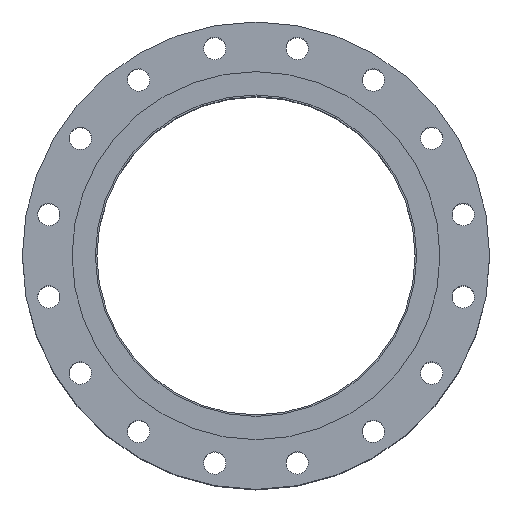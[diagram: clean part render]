
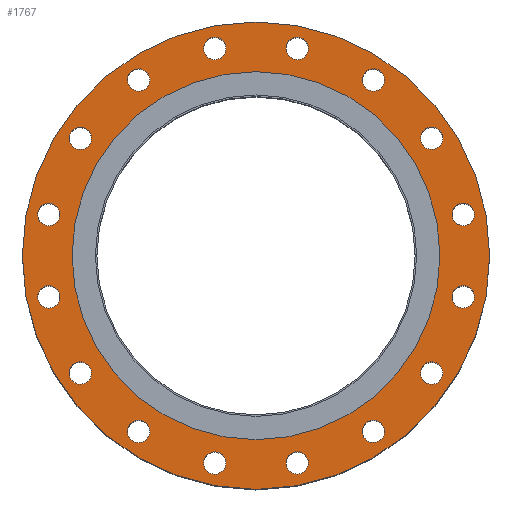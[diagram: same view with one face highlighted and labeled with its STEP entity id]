
A CAD part, top view. The second image highlights one B-rep face of the part: STEP entity #1767.
In plain terms, the highlighted planar face has unit normal (0, 0, 1).
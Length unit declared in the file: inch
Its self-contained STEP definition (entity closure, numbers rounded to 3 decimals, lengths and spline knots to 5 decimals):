
#92=FACE_BOUND('',#451,.T.);
#93=FACE_BOUND('',#452,.T.);
#94=FACE_BOUND('',#453,.T.);
#95=FACE_BOUND('',#454,.T.);
#96=FACE_BOUND('',#455,.T.);
#97=FACE_BOUND('',#456,.T.);
#98=FACE_BOUND('',#457,.T.);
#99=FACE_BOUND('',#458,.T.);
#100=FACE_BOUND('',#459,.T.);
#101=FACE_BOUND('',#460,.T.);
#102=FACE_BOUND('',#461,.T.);
#103=FACE_BOUND('',#462,.T.);
#104=FACE_BOUND('',#463,.T.);
#105=FACE_BOUND('',#464,.T.);
#106=FACE_BOUND('',#465,.T.);
#107=FACE_BOUND('',#466,.T.);
#108=FACE_BOUND('',#467,.T.);
#166=PLANE('',#1996);
#297=FACE_OUTER_BOUND('',#450,.T.);
#450=EDGE_LOOP('',(#1373));
#451=EDGE_LOOP('',(#1374));
#452=EDGE_LOOP('',(#1375));
#453=EDGE_LOOP('',(#1376));
#454=EDGE_LOOP('',(#1377));
#455=EDGE_LOOP('',(#1378));
#456=EDGE_LOOP('',(#1379));
#457=EDGE_LOOP('',(#1380));
#458=EDGE_LOOP('',(#1381));
#459=EDGE_LOOP('',(#1382));
#460=EDGE_LOOP('',(#1383));
#461=EDGE_LOOP('',(#1384));
#462=EDGE_LOOP('',(#1385));
#463=EDGE_LOOP('',(#1386));
#464=EDGE_LOOP('',(#1387));
#465=EDGE_LOOP('',(#1388));
#466=EDGE_LOOP('',(#1389));
#467=EDGE_LOOP('',(#1390));
#679=CIRCLE('',#1927,0.5625);
#681=CIRCLE('',#1930,0.5625);
#683=CIRCLE('',#1933,0.5625);
#685=CIRCLE('',#1936,0.5625);
#687=CIRCLE('',#1939,0.5625);
#689=CIRCLE('',#1942,0.5625);
#691=CIRCLE('',#1945,0.5625);
#693=CIRCLE('',#1948,0.5625);
#695=CIRCLE('',#1951,0.5625);
#697=CIRCLE('',#1954,0.5625);
#699=CIRCLE('',#1957,0.5625);
#701=CIRCLE('',#1960,0.5625);
#703=CIRCLE('',#1963,0.5625);
#705=CIRCLE('',#1966,0.5625);
#707=CIRCLE('',#1969,0.5625);
#709=CIRCLE('',#1972,0.5625);
#722=CIRCLE('',#1991,9.25);
#724=CIRCLE('',#1995,11.75);
#883=VERTEX_POINT('',#3022);
#885=VERTEX_POINT('',#3028);
#887=VERTEX_POINT('',#3034);
#889=VERTEX_POINT('',#3040);
#891=VERTEX_POINT('',#3046);
#893=VERTEX_POINT('',#3052);
#895=VERTEX_POINT('',#3058);
#897=VERTEX_POINT('',#3064);
#899=VERTEX_POINT('',#3070);
#901=VERTEX_POINT('',#3076);
#903=VERTEX_POINT('',#3082);
#905=VERTEX_POINT('',#3088);
#907=VERTEX_POINT('',#3094);
#909=VERTEX_POINT('',#3100);
#911=VERTEX_POINT('',#3106);
#913=VERTEX_POINT('',#3112);
#924=VERTEX_POINT('',#3144);
#926=VERTEX_POINT('',#3151);
#1035=EDGE_CURVE('',#883,#883,#679,.T.);
#1038=EDGE_CURVE('',#885,#885,#681,.T.);
#1041=EDGE_CURVE('',#887,#887,#683,.T.);
#1044=EDGE_CURVE('',#889,#889,#685,.T.);
#1047=EDGE_CURVE('',#891,#891,#687,.T.);
#1050=EDGE_CURVE('',#893,#893,#689,.T.);
#1053=EDGE_CURVE('',#895,#895,#691,.T.);
#1056=EDGE_CURVE('',#897,#897,#693,.T.);
#1059=EDGE_CURVE('',#899,#899,#695,.T.);
#1062=EDGE_CURVE('',#901,#901,#697,.T.);
#1065=EDGE_CURVE('',#903,#903,#699,.T.);
#1068=EDGE_CURVE('',#905,#905,#701,.T.);
#1071=EDGE_CURVE('',#907,#907,#703,.T.);
#1074=EDGE_CURVE('',#909,#909,#705,.T.);
#1077=EDGE_CURVE('',#911,#911,#707,.T.);
#1080=EDGE_CURVE('',#913,#913,#709,.T.);
#1096=EDGE_CURVE('',#924,#924,#722,.T.);
#1098=EDGE_CURVE('',#926,#926,#724,.T.);
#1373=ORIENTED_EDGE('',*,*,#1098,.T.);
#1374=ORIENTED_EDGE('',*,*,#1035,.T.);
#1375=ORIENTED_EDGE('',*,*,#1038,.T.);
#1376=ORIENTED_EDGE('',*,*,#1041,.T.);
#1377=ORIENTED_EDGE('',*,*,#1044,.T.);
#1378=ORIENTED_EDGE('',*,*,#1047,.T.);
#1379=ORIENTED_EDGE('',*,*,#1050,.T.);
#1380=ORIENTED_EDGE('',*,*,#1053,.T.);
#1381=ORIENTED_EDGE('',*,*,#1056,.T.);
#1382=ORIENTED_EDGE('',*,*,#1059,.T.);
#1383=ORIENTED_EDGE('',*,*,#1062,.T.);
#1384=ORIENTED_EDGE('',*,*,#1065,.T.);
#1385=ORIENTED_EDGE('',*,*,#1068,.T.);
#1386=ORIENTED_EDGE('',*,*,#1071,.T.);
#1387=ORIENTED_EDGE('',*,*,#1074,.T.);
#1388=ORIENTED_EDGE('',*,*,#1077,.T.);
#1389=ORIENTED_EDGE('',*,*,#1080,.T.);
#1390=ORIENTED_EDGE('',*,*,#1096,.T.);
#1767=ADVANCED_FACE('',(#297,#92,#93,#94,#95,#96,#97,#98,#99,#100,#101,
#102,#103,#104,#105,#106,#107,#108),#166,.T.);
#1927=AXIS2_PLACEMENT_3D('',#3023,#2287,#2288);
#1930=AXIS2_PLACEMENT_3D('',#3029,#2294,#2295);
#1933=AXIS2_PLACEMENT_3D('',#3035,#2301,#2302);
#1936=AXIS2_PLACEMENT_3D('',#3041,#2308,#2309);
#1939=AXIS2_PLACEMENT_3D('',#3047,#2315,#2316);
#1942=AXIS2_PLACEMENT_3D('',#3053,#2322,#2323);
#1945=AXIS2_PLACEMENT_3D('',#3059,#2329,#2330);
#1948=AXIS2_PLACEMENT_3D('',#3065,#2336,#2337);
#1951=AXIS2_PLACEMENT_3D('',#3071,#2343,#2344);
#1954=AXIS2_PLACEMENT_3D('',#3077,#2350,#2351);
#1957=AXIS2_PLACEMENT_3D('',#3083,#2357,#2358);
#1960=AXIS2_PLACEMENT_3D('',#3089,#2364,#2365);
#1963=AXIS2_PLACEMENT_3D('',#3095,#2371,#2372);
#1966=AXIS2_PLACEMENT_3D('',#3101,#2378,#2379);
#1969=AXIS2_PLACEMENT_3D('',#3107,#2385,#2386);
#1972=AXIS2_PLACEMENT_3D('',#3113,#2392,#2393);
#1991=AXIS2_PLACEMENT_3D('',#3146,#2433,#2434);
#1995=AXIS2_PLACEMENT_3D('',#3152,#2441,#2442);
#1996=AXIS2_PLACEMENT_3D('',#3154,#2444,#2445);
#2287=DIRECTION('center_axis',(0.,0.,-1.));
#2288=DIRECTION('ref_axis',(0.924,-0.383,0.));
#2294=DIRECTION('center_axis',(0.,0.,-1.));
#2295=DIRECTION('ref_axis',(0.707,-0.707,0.));
#2301=DIRECTION('center_axis',(0.,0.,-1.));
#2302=DIRECTION('ref_axis',(0.383,-0.924,0.));
#2308=DIRECTION('center_axis',(0.,0.,-1.));
#2309=DIRECTION('ref_axis',(0.,-1.,0.));
#2315=DIRECTION('center_axis',(0.,0.,-1.));
#2316=DIRECTION('ref_axis',(-0.383,-0.924,0.));
#2322=DIRECTION('center_axis',(0.,0.,-1.));
#2323=DIRECTION('ref_axis',(-0.707,-0.707,0.));
#2329=DIRECTION('center_axis',(0.,0.,-1.));
#2330=DIRECTION('ref_axis',(-0.924,-0.383,0.));
#2336=DIRECTION('center_axis',(0.,0.,-1.));
#2337=DIRECTION('ref_axis',(-1.,0.,0.));
#2343=DIRECTION('center_axis',(0.,0.,-1.));
#2344=DIRECTION('ref_axis',(-0.924,0.383,0.));
#2350=DIRECTION('center_axis',(0.,0.,-1.));
#2351=DIRECTION('ref_axis',(-0.707,0.707,0.));
#2357=DIRECTION('center_axis',(0.,0.,-1.));
#2358=DIRECTION('ref_axis',(-0.383,0.924,0.));
#2364=DIRECTION('center_axis',(0.,0.,-1.));
#2365=DIRECTION('ref_axis',(0.,1.,0.));
#2371=DIRECTION('center_axis',(0.,0.,-1.));
#2372=DIRECTION('ref_axis',(0.383,0.924,0.));
#2378=DIRECTION('center_axis',(0.,0.,-1.));
#2379=DIRECTION('ref_axis',(0.707,0.707,0.));
#2385=DIRECTION('center_axis',(0.,0.,-1.));
#2386=DIRECTION('ref_axis',(0.924,0.383,0.));
#2392=DIRECTION('center_axis',(0.,0.,-1.));
#2393=DIRECTION('ref_axis',(1.,0.,0.));
#2433=DIRECTION('center_axis',(0.,0.,-1.));
#2434=DIRECTION('ref_axis',(0.,1.,0.));
#2441=DIRECTION('center_axis',(0.,0.,1.));
#2442=DIRECTION('ref_axis',(1.,0.,0.));
#2444=DIRECTION('center_axis',(0.,0.,1.));
#2445=DIRECTION('ref_axis',(1.,0.,0.));
#3022=CARTESIAN_POINT('',(1.55315,10.6361,0.69));
#3023=CARTESIAN_POINT('Origin',(2.07283,10.42084,0.69));
#3028=CARTESIAN_POINT('',(5.50519,9.23211,0.69));
#3029=CARTESIAN_POINT('Origin',(5.90293,8.83436,0.69));
#3034=CARTESIAN_POINT('',(8.61911,6.42262,0.69));
#3035=CARTESIAN_POINT('Origin',(8.83436,5.90293,0.69));
#3040=CARTESIAN_POINT('',(10.42084,2.63533,0.69));
#3041=CARTESIAN_POINT('Origin',(10.42084,2.07283,0.69));
#3046=CARTESIAN_POINT('',(10.6361,-1.55315,0.69));
#3047=CARTESIAN_POINT('Origin',(10.42084,-2.07283,0.69));
#3052=CARTESIAN_POINT('',(9.23211,-5.50519,0.69));
#3053=CARTESIAN_POINT('Origin',(8.83436,-5.90293,0.69));
#3058=CARTESIAN_POINT('',(6.42262,-8.61911,0.69));
#3059=CARTESIAN_POINT('Origin',(5.90293,-8.83436,0.69));
#3064=CARTESIAN_POINT('',(2.63533,-10.42084,0.69));
#3065=CARTESIAN_POINT('Origin',(2.07283,-10.42084,0.69));
#3070=CARTESIAN_POINT('',(-1.55315,-10.6361,0.69));
#3071=CARTESIAN_POINT('Origin',(-2.07283,-10.42084,0.69));
#3076=CARTESIAN_POINT('',(-5.50519,-9.23211,0.69));
#3077=CARTESIAN_POINT('Origin',(-5.90293,-8.83436,0.69));
#3082=CARTESIAN_POINT('',(-8.61911,-6.42262,0.69));
#3083=CARTESIAN_POINT('Origin',(-8.83436,-5.90293,0.69));
#3088=CARTESIAN_POINT('',(-10.42084,-2.63533,0.69));
#3089=CARTESIAN_POINT('Origin',(-10.42084,-2.07283,0.69));
#3094=CARTESIAN_POINT('',(-10.6361,1.55315,0.69));
#3095=CARTESIAN_POINT('Origin',(-10.42084,2.07283,0.69));
#3100=CARTESIAN_POINT('',(-9.23211,5.50519,0.69));
#3101=CARTESIAN_POINT('Origin',(-8.83436,5.90293,0.69));
#3106=CARTESIAN_POINT('',(-6.42262,8.61911,0.69));
#3107=CARTESIAN_POINT('Origin',(-5.90293,8.83436,0.69));
#3112=CARTESIAN_POINT('',(-2.63533,10.42084,0.69));
#3113=CARTESIAN_POINT('Origin',(-2.07283,10.42084,0.69));
#3144=CARTESIAN_POINT('',(0.,-9.25,0.69));
#3146=CARTESIAN_POINT('Origin',(0.,0.,0.69));
#3151=CARTESIAN_POINT('',(0.,-11.75,0.69));
#3152=CARTESIAN_POINT('Origin',(0.,0.,0.69));
#3154=CARTESIAN_POINT('Origin',(0.,8.08,0.69));
